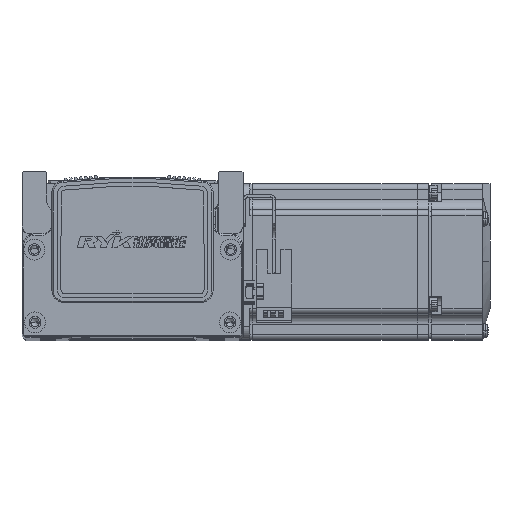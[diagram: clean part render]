
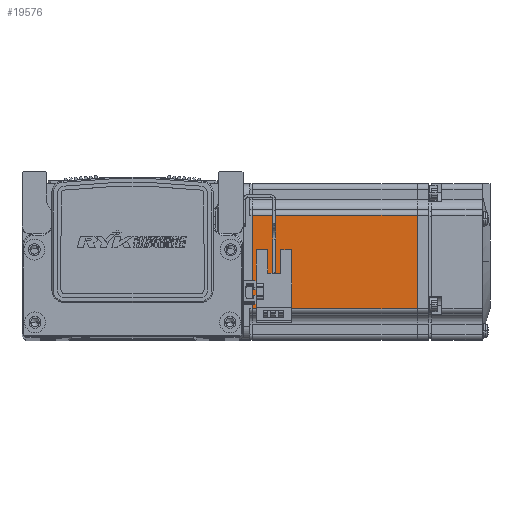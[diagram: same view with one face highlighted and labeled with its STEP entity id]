
A CAD part, top view. The second image highlights one B-rep face of the part: STEP entity #19576.
In plain terms, the highlighted planar face has unit normal (0, 0, 1) as drawn and (0, 0, -1) by its records, which use the part's own axes.
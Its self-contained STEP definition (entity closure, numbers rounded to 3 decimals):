
#3556 = EDGE_CURVE ( 'NONE', #35407, #35478, #72700, .T. ) ;
#3613 = EDGE_CURVE ( 'NONE', #35474, #35407, #47660, .T. ) ;
#3637 = EDGE_CURVE ( 'NONE', #35452, #35474, #47673, .T. ) ;
#3654 = EDGE_CURVE ( 'NONE', #35478, #35452, #47698, .T. ) ;
#4359 = CARTESIAN_POINT ( 'NONE',  ( -70.95, 25., -30. ) ) ;
#4431 = DIRECTION ( 'NONE',  ( 0., 1., 0. ) ) ;
#19576 = ADVANCED_FACE ( 'NONE', ( #30466 ), #38881, .T. ) ;
#20664 = EDGE_LOOP ( 'NONE', ( #60524, #60510, #60538, #60523 ) ) ;
#26006 = CARTESIAN_POINT ( 'NONE',  ( -70.95, -18., -30. ) ) ;
#26032 = CARTESIAN_POINT ( 'NONE',  ( -7.75, -18., -30. ) ) ;
#26052 = CARTESIAN_POINT ( 'NONE',  ( -70.95, 18., -30. ) ) ;
#26062 = CARTESIAN_POINT ( 'NONE',  ( -7.75, 18., -30. ) ) ;
#30466 = FACE_OUTER_BOUND ( 'NONE', #20664, .T. ) ;
#35407 = VERTEX_POINT ( 'NONE', #26032 ) ;
#35452 = VERTEX_POINT ( 'NONE', #26052 ) ;
#35474 = VERTEX_POINT ( 'NONE', #26062 ) ;
#35478 = VERTEX_POINT ( 'NONE', #26006 ) ;
#38874 = CARTESIAN_POINT ( 'NONE',  ( -6.5, 25., -30. ) ) ;
#38881 = PLANE ( 'NONE',  #51458 ) ;
#38912 = DIRECTION ( 'NONE',  ( -1., 0., 0. ) ) ;
#38933 = DIRECTION ( 'NONE',  ( 0., 0., -1. ) ) ;
#47659 = VECTOR ( 'NONE', #67724, 1000. ) ;
#47660 = LINE ( 'NONE', #67705, #47659 ) ;
#47673 = LINE ( 'NONE', #67799, #47689 ) ;
#47689 = VECTOR ( 'NONE', #67796, 1000. ) ;
#47698 = LINE ( 'NONE', #4359, #47712 ) ;
#47712 = VECTOR ( 'NONE', #4431, 1000. ) ;
#51458 = AXIS2_PLACEMENT_3D ( 'NONE', #38874, #38933, #38912 ) ;
#60510 = ORIENTED_EDGE ( 'NONE', *, *, #3556, .T. ) ;
#60523 = ORIENTED_EDGE ( 'NONE', *, *, #3637, .T. ) ;
#60524 = ORIENTED_EDGE ( 'NONE', *, *, #3613, .T. ) ;
#60538 = ORIENTED_EDGE ( 'NONE', *, *, #3654, .T. ) ;
#67535 = DIRECTION ( 'NONE',  ( -1., 0., 0. ) ) ;
#67536 = CARTESIAN_POINT ( 'NONE',  ( -6.5, -18., -30. ) ) ;
#67705 = CARTESIAN_POINT ( 'NONE',  ( -7.75, 25., -30. ) ) ;
#67724 = DIRECTION ( 'NONE',  ( 0., -1., 0. ) ) ;
#67796 = DIRECTION ( 'NONE',  ( 1., 0., 0. ) ) ;
#67799 = CARTESIAN_POINT ( 'NONE',  ( -6.5, 18., -30. ) ) ;
#72700 = LINE ( 'NONE', #67536, #72735 ) ;
#72735 = VECTOR ( 'NONE', #67535, 1000. ) ;
